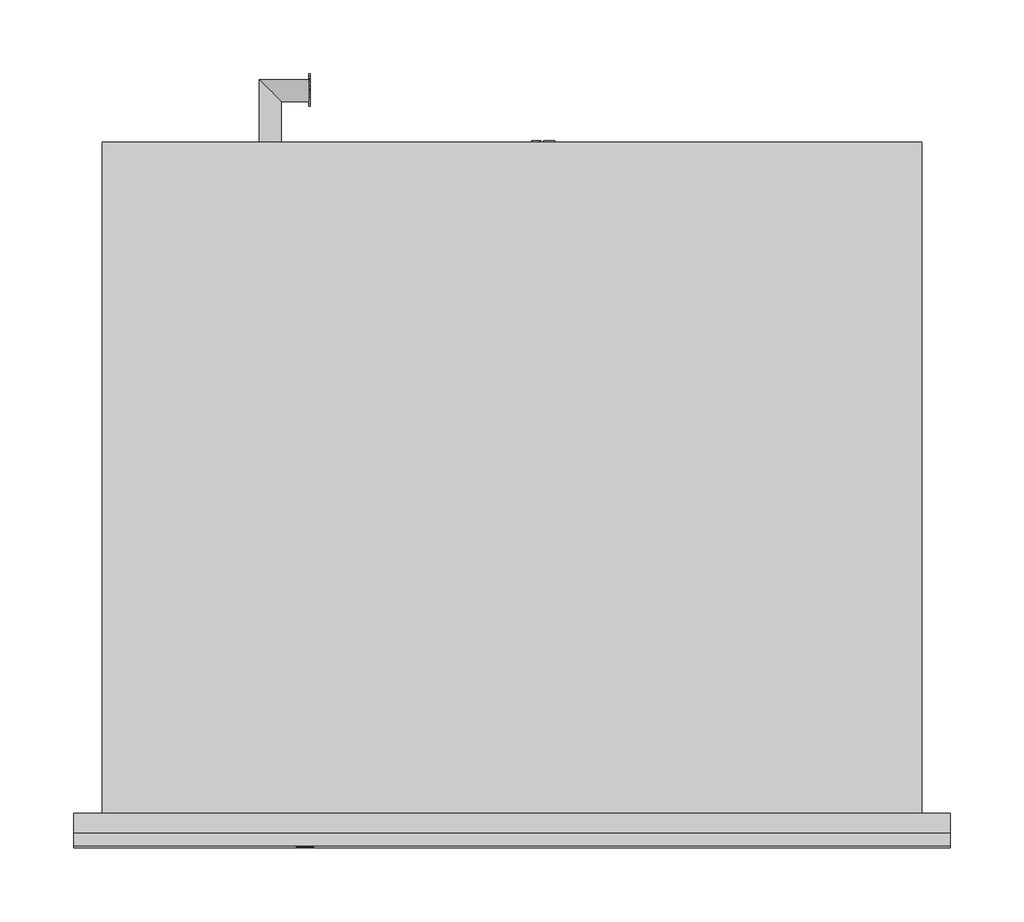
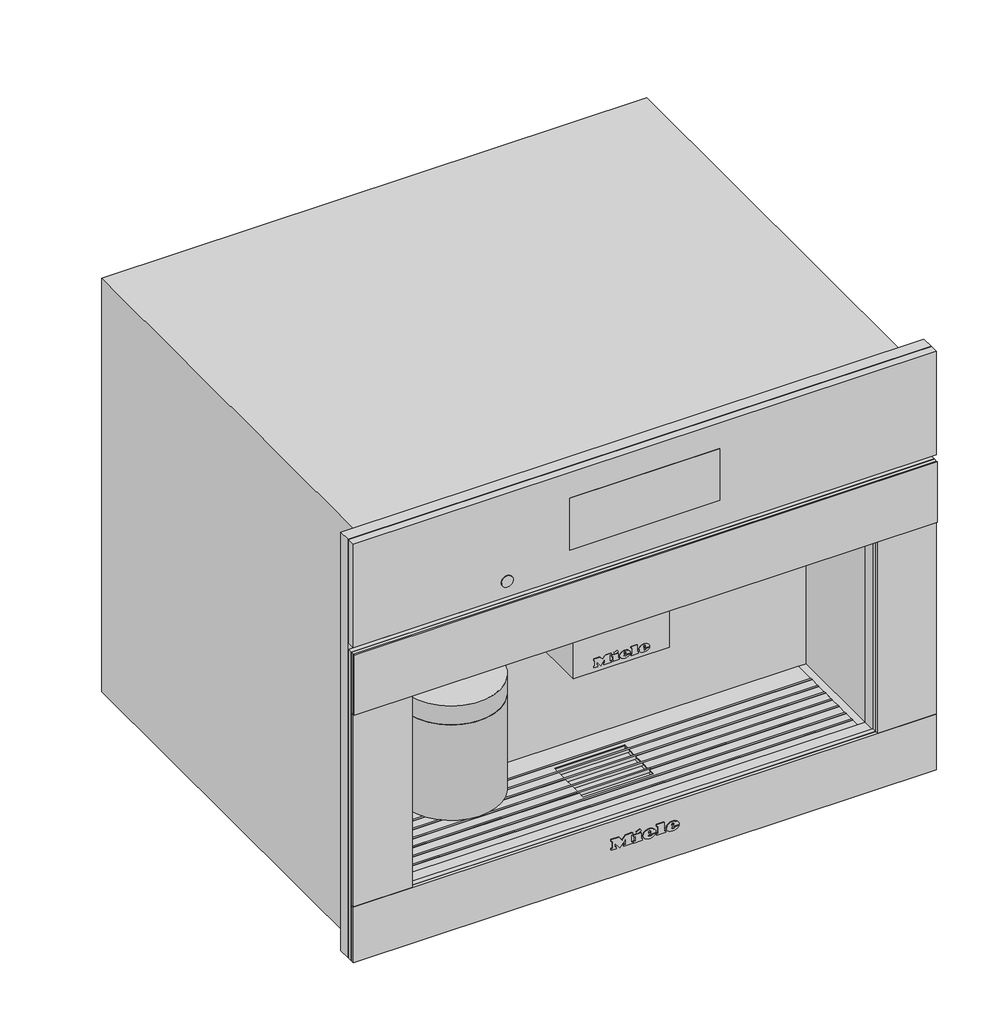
# Not in any storey: 1 proxy.
"""IFC4 building model written with IfcOpenShell, lengths in millimetres."""

from ifc_helpers import new_model, si_unit, origin, place, context, project, spatial, transform, mapped, element, save
from components import specialty_equipment_d282b1ad

model = new_model("IFC4")

# Units and contexts
model_context = context("Model", 3, world=origin())
ifc_project = project(units=[si_unit("LENGTHUNIT", "METRE", prefix="MILLI")], contexts=[model_context])

# Site, building
site = spatial("IfcSite", under=ifc_project)
building = spatial("IfcBuilding", under=site)

# Proxy
placement = place(None, origin())
specialty_equipment_shape = specialty_equipment_d282b1ad(model_context)
element("IfcBuildingElementProxy", 1, Name="11754310_MEX_CVA7845_EDST-CLST : 29784540_MEX_11754310_CVA7845_EDST-CLST", ObjectType="11754310_MEX_CVA7845_EDST-CLST : 29784540_MEX_11754310_CVA7845_EDST-CLST", at=placement, inside=building, context=model_context, shape_type="MappedRepresentation", body=[
    mapped(specialty_equipment_shape, transform((0.0, 0.0, 0.0), x_axis=(1.0, 0.0, 0.0), y_axis=(0.0, 1.0, 0.0), z_axis=(0.0, 0.0, 1.0))),
])

save(model, "model.ifc")
